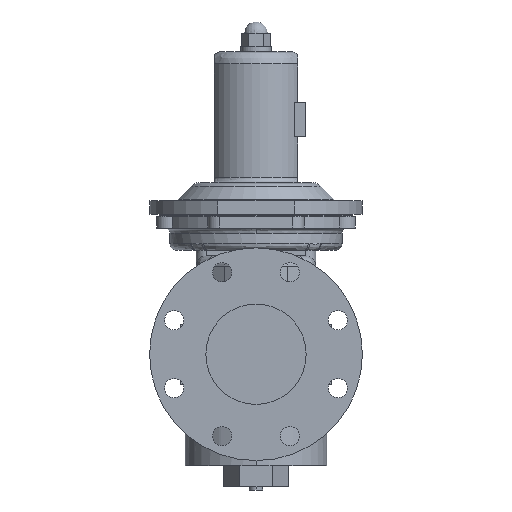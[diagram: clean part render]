
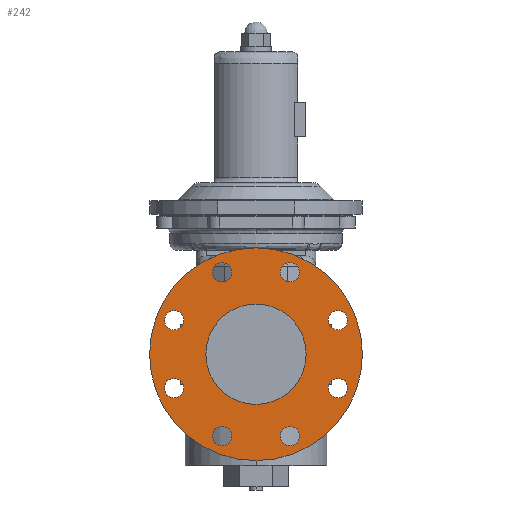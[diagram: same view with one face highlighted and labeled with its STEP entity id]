
A CAD part, left-side view. The second image highlights one B-rep face of the part: STEP entity #242.
In plain terms, the highlighted planar face has unit normal (-1, 0, 0).
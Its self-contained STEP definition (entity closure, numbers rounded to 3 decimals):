
#242=ADVANCED_FACE('',(#2028,#2029,#2030,#2031,#2032,#2033,#2034,#2035,#2036,#2037),#2027,.F.);
#2027=PLANE('',#5536);
#2028=FACE_OUTER_BOUND('',#5537,.T.);
#2029=FACE_BOUND('',#5538,.T.);
#2030=FACE_BOUND('',#5539,.T.);
#2031=FACE_BOUND('',#5540,.T.);
#2032=FACE_BOUND('',#5541,.T.);
#2033=FACE_BOUND('',#5542,.T.);
#2034=FACE_BOUND('',#5543,.T.);
#2035=FACE_BOUND('',#5544,.T.);
#2036=FACE_BOUND('',#5545,.T.);
#2037=FACE_BOUND('',#5546,.T.);
#5533=CARTESIAN_POINT('',(-235.,-191.865,220.));
#5534=DIRECTION('',(1.,0.,0.));
#5535=DIRECTION('',(0.,0.,-1.));
#5536=AXIS2_PLACEMENT_3D('',#5533,#5534,#5535);
#5537=EDGE_LOOP('',(#7029,#7030));
#5538=EDGE_LOOP('',(#7031,#7032));
#5539=EDGE_LOOP('',(#7033,#7034));
#5540=EDGE_LOOP('',(#7035,#7036));
#5541=EDGE_LOOP('',(#7037,#7038));
#5542=EDGE_LOOP('',(#7039,#7040));
#5543=EDGE_LOOP('',(#7041,#7042));
#5544=EDGE_LOOP('',(#7043,#7044));
#5545=EDGE_LOOP('',(#7045,#7046));
#5546=EDGE_LOOP('',(#7047,#7048));
#7029=ORIENTED_EDGE('',*,*,#8083,.T.);
#7030=ORIENTED_EDGE('',*,*,#8084,.T.);
#7031=ORIENTED_EDGE('',*,*,#8085,.F.);
#7032=ORIENTED_EDGE('',*,*,#8086,.F.);
#7033=ORIENTED_EDGE('',*,*,#8087,.F.);
#7034=ORIENTED_EDGE('',*,*,#8088,.F.);
#7035=ORIENTED_EDGE('',*,*,#8089,.F.);
#7036=ORIENTED_EDGE('',*,*,#8090,.F.);
#7037=ORIENTED_EDGE('',*,*,#8091,.F.);
#7038=ORIENTED_EDGE('',*,*,#8092,.F.);
#7039=ORIENTED_EDGE('',*,*,#8093,.F.);
#7040=ORIENTED_EDGE('',*,*,#8094,.F.);
#7041=ORIENTED_EDGE('',*,*,#8095,.F.);
#7042=ORIENTED_EDGE('',*,*,#8096,.F.);
#7043=ORIENTED_EDGE('',*,*,#8097,.F.);
#7044=ORIENTED_EDGE('',*,*,#8098,.F.);
#7045=ORIENTED_EDGE('',*,*,#8099,.F.);
#7046=ORIENTED_EDGE('',*,*,#8100,.F.);
#7047=ORIENTED_EDGE('',*,*,#8101,.F.);
#7048=ORIENTED_EDGE('',*,*,#8102,.F.);
#8083=EDGE_CURVE('',#11750,#11751,#11752,.T.);
#8084=EDGE_CURVE('',#11751,#11750,#11758,.T.);
#8085=EDGE_CURVE('',#11764,#11765,#11766,.T.);
#8086=EDGE_CURVE('',#11765,#11764,#11772,.T.);
#8087=EDGE_CURVE('',#11778,#11779,#11780,.T.);
#8088=EDGE_CURVE('',#11779,#11778,#11786,.T.);
#8089=EDGE_CURVE('',#11792,#11793,#11794,.T.);
#8090=EDGE_CURVE('',#11793,#11792,#11800,.T.);
#8091=EDGE_CURVE('',#11806,#11807,#11808,.T.);
#8092=EDGE_CURVE('',#11807,#11806,#11814,.T.);
#8093=EDGE_CURVE('',#11820,#11821,#11822,.T.);
#8094=EDGE_CURVE('',#11821,#11820,#11828,.T.);
#8095=EDGE_CURVE('',#11834,#11835,#11836,.T.);
#8096=EDGE_CURVE('',#11835,#11834,#11842,.T.);
#8097=EDGE_CURVE('',#11848,#11849,#11850,.T.);
#8098=EDGE_CURVE('',#11849,#11848,#11856,.T.);
#8099=EDGE_CURVE('',#11862,#11863,#11864,.T.);
#8100=EDGE_CURVE('',#11863,#11862,#11870,.T.);
#8101=EDGE_CURVE('',#11876,#11877,#11878,.T.);
#8102=EDGE_CURVE('',#11877,#11876,#11884,.T.);
#11750=VERTEX_POINT('',#15487);
#11751=VERTEX_POINT('',#15488);
#11752=CIRCLE('',#15492,105.);
#11758=CIRCLE('',#15496,105.);
#11764=VERTEX_POINT('',#15497);
#11765=VERTEX_POINT('',#15498);
#11766=CIRCLE('',#15502,9.5);
#11772=CIRCLE('',#15506,9.5);
#11778=VERTEX_POINT('',#15507);
#11779=VERTEX_POINT('',#15508);
#11780=CIRCLE('',#15512,9.5);
#11786=CIRCLE('',#15516,9.5);
#11792=VERTEX_POINT('',#15517);
#11793=VERTEX_POINT('',#15518);
#11794=CIRCLE('',#15522,9.5);
#11800=CIRCLE('',#15526,9.5);
#11806=VERTEX_POINT('',#15527);
#11807=VERTEX_POINT('',#15528);
#11808=CIRCLE('',#15532,9.5);
#11814=CIRCLE('',#15536,9.5);
#11820=VERTEX_POINT('',#15537);
#11821=VERTEX_POINT('',#15538);
#11822=CIRCLE('',#15542,9.5);
#11828=CIRCLE('',#15546,9.5);
#11834=VERTEX_POINT('',#15547);
#11835=VERTEX_POINT('',#15548);
#11836=CIRCLE('',#15552,9.5);
#11842=CIRCLE('',#15556,9.5);
#11848=VERTEX_POINT('',#15557);
#11849=VERTEX_POINT('',#15558);
#11850=CIRCLE('',#15562,9.5);
#11856=CIRCLE('',#15566,9.5);
#11862=VERTEX_POINT('',#15567);
#11863=VERTEX_POINT('',#15568);
#11864=CIRCLE('',#15572,9.5);
#11870=CIRCLE('',#15576,9.5);
#11876=VERTEX_POINT('',#15577);
#11877=VERTEX_POINT('',#15578);
#11878=CIRCLE('',#15582,49.5);
#11884=CIRCLE('',#15586,49.5);
#15487=CARTESIAN_POINT('',(-235.,0.,-105.));
#15488=CARTESIAN_POINT('',(-235.,0.,105.));
#15489=CARTESIAN_POINT('',(-235.,0.,0.));
#15490=DIRECTION('',(-1.,0.,0.));
#15491=DIRECTION('',(0.,0.,-1.));
#15492=AXIS2_PLACEMENT_3D('',#15489,#15490,#15491);
#15493=CARTESIAN_POINT('',(-235.,0.,0.));
#15494=DIRECTION('',(-1.,0.,0.));
#15495=DIRECTION('',(0.,0.,-1.));
#15496=AXIS2_PLACEMENT_3D('',#15493,#15494,#15495);
#15497=CARTESIAN_POINT('',(-235.,-33.485,-90.339));
#15498=CARTESIAN_POINT('',(-235.,-33.485,-71.339));
#15499=CARTESIAN_POINT('',(-235.,-33.485,-80.839));
#15500=DIRECTION('',(-1.,0.,0.));
#15501=DIRECTION('',(0.,0.,1.));
#15502=AXIS2_PLACEMENT_3D('',#15499,#15500,#15501);
#15503=CARTESIAN_POINT('',(-235.,-33.485,-80.839));
#15504=DIRECTION('',(-1.,0.,0.));
#15505=DIRECTION('',(0.,0.,1.));
#15506=AXIS2_PLACEMENT_3D('',#15503,#15504,#15505);
#15507=CARTESIAN_POINT('',(-235.,-80.839,-42.985));
#15508=CARTESIAN_POINT('',(-235.,-80.839,-23.985));
#15509=CARTESIAN_POINT('',(-235.,-80.839,-33.485));
#15510=DIRECTION('',(-1.,0.,0.));
#15511=DIRECTION('',(0.,0.,1.));
#15512=AXIS2_PLACEMENT_3D('',#15509,#15510,#15511);
#15513=CARTESIAN_POINT('',(-235.,-80.839,-33.485));
#15514=DIRECTION('',(-1.,0.,0.));
#15515=DIRECTION('',(0.,0.,1.));
#15516=AXIS2_PLACEMENT_3D('',#15513,#15514,#15515);
#15517=CARTESIAN_POINT('',(-235.,-80.839,23.985));
#15518=CARTESIAN_POINT('',(-235.,-80.839,42.985));
#15519=CARTESIAN_POINT('',(-235.,-80.839,33.485));
#15520=DIRECTION('',(-1.,0.,0.));
#15521=DIRECTION('',(0.,0.,1.));
#15522=AXIS2_PLACEMENT_3D('',#15519,#15520,#15521);
#15523=CARTESIAN_POINT('',(-235.,-80.839,33.485));
#15524=DIRECTION('',(-1.,0.,0.));
#15525=DIRECTION('',(0.,0.,1.));
#15526=AXIS2_PLACEMENT_3D('',#15523,#15524,#15525);
#15527=CARTESIAN_POINT('',(-235.,-33.485,71.339));
#15528=CARTESIAN_POINT('',(-235.,-33.485,90.339));
#15529=CARTESIAN_POINT('',(-235.,-33.485,80.839));
#15530=DIRECTION('',(-1.,0.,0.));
#15531=DIRECTION('',(0.,0.,1.));
#15532=AXIS2_PLACEMENT_3D('',#15529,#15530,#15531);
#15533=CARTESIAN_POINT('',(-235.,-33.485,80.839));
#15534=DIRECTION('',(-1.,0.,0.));
#15535=DIRECTION('',(0.,0.,1.));
#15536=AXIS2_PLACEMENT_3D('',#15533,#15534,#15535);
#15537=CARTESIAN_POINT('',(-235.,33.485,71.339));
#15538=CARTESIAN_POINT('',(-235.,33.485,90.339));
#15539=CARTESIAN_POINT('',(-235.,33.485,80.839));
#15540=DIRECTION('',(-1.,0.,0.));
#15541=DIRECTION('',(0.,0.,1.));
#15542=AXIS2_PLACEMENT_3D('',#15539,#15540,#15541);
#15543=CARTESIAN_POINT('',(-235.,33.485,80.839));
#15544=DIRECTION('',(-1.,0.,0.));
#15545=DIRECTION('',(0.,0.,1.));
#15546=AXIS2_PLACEMENT_3D('',#15543,#15544,#15545);
#15547=CARTESIAN_POINT('',(-235.,80.839,23.985));
#15548=CARTESIAN_POINT('',(-235.,80.839,42.985));
#15549=CARTESIAN_POINT('',(-235.,80.839,33.485));
#15550=DIRECTION('',(-1.,0.,0.));
#15551=DIRECTION('',(0.,0.,1.));
#15552=AXIS2_PLACEMENT_3D('',#15549,#15550,#15551);
#15553=CARTESIAN_POINT('',(-235.,80.839,33.485));
#15554=DIRECTION('',(-1.,0.,0.));
#15555=DIRECTION('',(0.,0.,1.));
#15556=AXIS2_PLACEMENT_3D('',#15553,#15554,#15555);
#15557=CARTESIAN_POINT('',(-235.,80.839,-42.985));
#15558=CARTESIAN_POINT('',(-235.,80.839,-23.985));
#15559=CARTESIAN_POINT('',(-235.,80.839,-33.485));
#15560=DIRECTION('',(-1.,0.,0.));
#15561=DIRECTION('',(0.,0.,1.));
#15562=AXIS2_PLACEMENT_3D('',#15559,#15560,#15561);
#15563=CARTESIAN_POINT('',(-235.,80.839,-33.485));
#15564=DIRECTION('',(-1.,0.,0.));
#15565=DIRECTION('',(0.,0.,1.));
#15566=AXIS2_PLACEMENT_3D('',#15563,#15564,#15565);
#15567=CARTESIAN_POINT('',(-235.,33.485,-90.339));
#15568=CARTESIAN_POINT('',(-235.,33.485,-71.339));
#15569=CARTESIAN_POINT('',(-235.,33.485,-80.839));
#15570=DIRECTION('',(-1.,0.,0.));
#15571=DIRECTION('',(0.,0.,1.));
#15572=AXIS2_PLACEMENT_3D('',#15569,#15570,#15571);
#15573=CARTESIAN_POINT('',(-235.,33.485,-80.839));
#15574=DIRECTION('',(-1.,0.,0.));
#15575=DIRECTION('',(0.,0.,1.));
#15576=AXIS2_PLACEMENT_3D('',#15573,#15574,#15575);
#15577=CARTESIAN_POINT('',(-235.,0.,-49.5));
#15578=CARTESIAN_POINT('',(-235.,0.,49.5));
#15579=CARTESIAN_POINT('',(-235.,0.,0.));
#15580=DIRECTION('',(-1.,0.,0.));
#15581=DIRECTION('',(0.,0.,1.));
#15582=AXIS2_PLACEMENT_3D('',#15579,#15580,#15581);
#15583=CARTESIAN_POINT('',(-235.,0.,0.));
#15584=DIRECTION('',(-1.,0.,0.));
#15585=DIRECTION('',(0.,0.,1.));
#15586=AXIS2_PLACEMENT_3D('',#15583,#15584,#15585);
